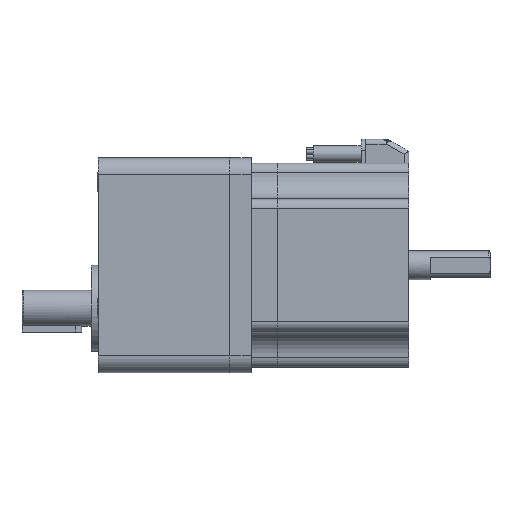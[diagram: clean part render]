
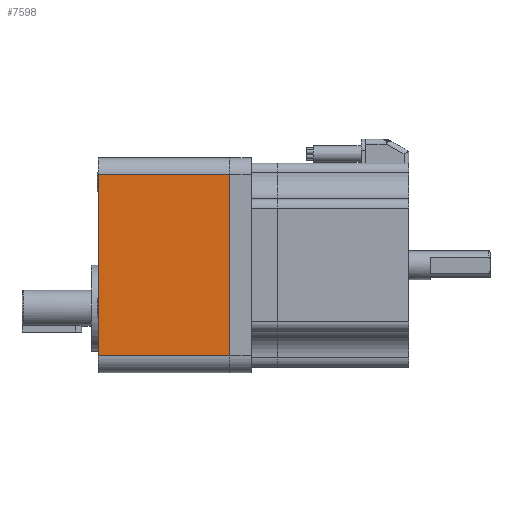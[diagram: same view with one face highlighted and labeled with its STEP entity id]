
A CAD part, left-side view. The second image highlights one B-rep face of the part: STEP entity #7598.
In plain terms, the highlighted planar face has unit normal (-1, 0, 0).
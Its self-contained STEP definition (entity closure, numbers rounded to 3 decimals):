
#157 = EDGE_CURVE ( 'NONE', #2692, #5434, #3626, .T. ) ;
#215 = CARTESIAN_POINT ( 'NONE',  ( -45., 0., -38. ) ) ;
#486 = DIRECTION ( 'NONE',  ( 0., 0., -1. ) ) ;
#843 = ORIENTED_EDGE ( 'NONE', *, *, #157, .F. ) ;
#1303 = ORIENTED_EDGE ( 'NONE', *, *, #5217, .T. ) ;
#1905 = CARTESIAN_POINT ( 'NONE',  ( -45., -55., 38. ) ) ;
#2456 = EDGE_CURVE ( 'NONE', #4169, #5434, #7532, .T. ) ;
#2692 = VERTEX_POINT ( 'NONE', #1905 ) ;
#2863 = VECTOR ( 'NONE', #2902, 1000. ) ;
#2902 = DIRECTION ( 'NONE',  ( 0., 0., -1. ) ) ;
#2947 = PLANE ( 'NONE',  #7872 ) ;
#3027 = EDGE_CURVE ( 'NONE', #2692, #3219, #7400, .T. ) ;
#3200 = CARTESIAN_POINT ( 'NONE',  ( -45., 0., 38. ) ) ;
#3219 = VERTEX_POINT ( 'NONE', #3200 ) ;
#3424 = CARTESIAN_POINT ( 'NONE',  ( -45., -55., 45. ) ) ;
#3468 = CARTESIAN_POINT ( 'NONE',  ( -45., -55., 45. ) ) ;
#3573 = VECTOR ( 'NONE', #7064, 1000. ) ;
#3626 = LINE ( 'NONE', #3424, #2863 ) ;
#4007 = DIRECTION ( 'NONE',  ( 0., 0., -1. ) ) ;
#4169 = VERTEX_POINT ( 'NONE', #215 ) ;
#5217 = EDGE_CURVE ( 'NONE', #3219, #4169, #7267, .T. ) ;
#5281 = DIRECTION ( 'NONE',  ( 0., -1., 0. ) ) ;
#5434 = VERTEX_POINT ( 'NONE', #6036 ) ;
#5921 = VECTOR ( 'NONE', #5281, 1000. ) ;
#6036 = CARTESIAN_POINT ( 'NONE',  ( -45., -55., -38. ) ) ;
#6498 = FACE_OUTER_BOUND ( 'NONE', #7353, .T. ) ;
#6504 = CARTESIAN_POINT ( 'NONE',  ( -45., 0., 45. ) ) ;
#6982 = VECTOR ( 'NONE', #4007, 1000. ) ;
#7064 = DIRECTION ( 'NONE',  ( 0., 1., 0. ) ) ;
#7091 = CARTESIAN_POINT ( 'NONE',  ( -45., 0., 38. ) ) ;
#7267 = LINE ( 'NONE', #6504, #6982 ) ;
#7353 = EDGE_LOOP ( 'NONE', ( #1303, #7672, #843, #7599 ) ) ;
#7400 = LINE ( 'NONE', #7091, #3573 ) ;
#7532 = LINE ( 'NONE', #7660, #5921 ) ;
#7598 = ADVANCED_FACE ( 'NONE', ( #6498 ), #2947, .F. ) ;
#7599 = ORIENTED_EDGE ( 'NONE', *, *, #3027, .T. ) ;
#7660 = CARTESIAN_POINT ( 'NONE',  ( -45., -55., -38. ) ) ;
#7672 = ORIENTED_EDGE ( 'NONE', *, *, #2456, .T. ) ;
#7777 = DIRECTION ( 'NONE',  ( 1., 0., 0. ) ) ;
#7872 = AXIS2_PLACEMENT_3D ( 'NONE', #3468, #7777, #486 ) ;
